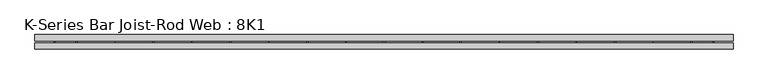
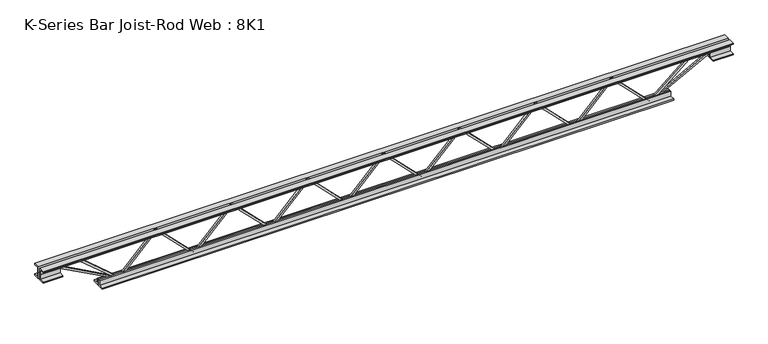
"""IFC4 building model written with IfcOpenShell, lengths in millimetres: beam geometry, K-Series Bar Joist-Rod Web : 8K1."""

from ifc_helpers import new_model, si_unit, frame, origin, place, context, project, spatial, polyline, outline, extrude, source, transform, mapped, element, save


def k_series_bar_joist_rod_web_8k1_99de95d9(model_context):
    return source(origin(), model_context, "Body", "SweptSolid", [
        extrude(outline(polyline([(-90.4875, 586.3869215), (-100.0125, 586.3869215), (-100.0125, 591.5448196), (90.4875, 780.6571268), (90.4875, 783.0413306), (-100.0125, 972.1536378), (-100.0125, 977.3115359), (-90.4875, 977.3115359), (-90.4875, 976.119434), (100.0125, 787.0071268), (100.0125, 776.6913306), (-90.4875, 587.5790235), (-90.4875, 586.3869215)])), frame((0.0, -4.7625, 0.0), z_axis=(0.0, 1.0, 0.0), x_axis=(0.0, 0.0, 1.0)), (0.0, 0.0, 1.0), 9.525),
        extrude(outline(polyline([(-90.4875, 195.4623072), (-100.0125, 195.4623072), (-100.0125, 200.6202052), (90.4875, 389.7325124), (90.4875, 392.1167163), (-100.0125, 581.2290235), (-100.0125, 586.3869215), (-90.4875, 586.3869215), (-90.4875, 585.1948196), (100.0125, 396.0825124), (100.0125, 385.7667163), (-90.4875, 196.6544091), (-90.4875, 195.4623072)])), frame((0.0, -4.7625, 0.0), z_axis=(0.0, 1.0, 0.0), x_axis=(0.0, 0.0, 1.0)), (0.0, 0.0, 1.0), 9.525),
        extrude(outline(polyline([(-90.4875, -195.4623072), (-100.0125, -195.4623072), (-100.0125, -190.3044091), (90.4875, -1.1921019), (90.4875, 1.1921019), (-100.0125, 190.3044091), (-100.0125, 195.4623072), (-90.4875, 195.4623072), (-90.4875, 194.2702052), (100.0125, 5.1578981), (100.0125, -5.1578981), (-90.4875, -194.2702052), (-90.4875, -195.4623072)])), frame((0.0, -4.7625, 0.0), z_axis=(0.0, 1.0, 0.0), x_axis=(0.0, 0.0, 1.0)), (0.0, 0.0, 1.0), 9.525),
        extrude(outline(polyline([(-90.4875, -586.3869215), (-100.0125, -586.3869215), (-100.0125, -581.2290235), (90.4875, -392.1167163), (90.4875, -389.7325124), (-100.0125, -200.6202052), (-100.0125, -195.4623072), (-90.4875, -195.4623072), (-90.4875, -196.6544091), (100.0125, -385.7667163), (100.0125, -396.0825124), (-90.4875, -585.1948196), (-90.4875, -586.3869215)])), frame((0.0, -4.7625, 0.0), z_axis=(0.0, 1.0, 0.0), x_axis=(0.0, 0.0, 1.0)), (0.0, 0.0, 1.0), 9.525),
        extrude(outline(polyline([(-90.4875, -977.3115359), (-100.0125, -977.3115359), (-100.0125, -972.1536378), (90.4875, -783.0413306), (90.4875, -780.6571268), (-100.0125, -591.5448196), (-100.0125, -586.3869215), (-90.4875, -586.3869215), (-90.4875, -587.5790235), (100.0125, -776.6913306), (100.0125, -787.0071268), (-90.4875, -976.119434), (-90.4875, -977.3115359)])), frame((0.0, -4.7625, 0.0), z_axis=(0.0, 1.0, 0.0), x_axis=(0.0, 0.0, 1.0)), (0.0, 0.0, 1.0), 9.525),
        extrude(outline(polyline([(-90.4875, 977.3115359), (-100.0125, 977.3115359), (-100.0125, 982.469434), (90.4875, 1171.5817411), (90.4875, 1173.965945), (-100.0125, 1363.0782522), (-100.0125, 1368.2361502), (-90.4875, 1368.2361502), (-90.4875, 1367.0440483), (100.0125, 1177.9317411), (100.0125, 1167.615945), (-90.4875, 978.5036378), (-90.4875, 977.3115359)])), frame((0.0, -4.7625, 0.0), z_axis=(0.0, 1.0, 0.0), x_axis=(0.0, 0.0, 1.0)), (0.0, 0.0, 1.0), 9.525),
        extrude(outline(polyline([(-90.4875, -1368.2361502), (-100.0125, -1368.2361502), (-100.0125, -1363.0782522), (90.4875, -1173.965945), (90.4875, -1171.5817411), (-100.0125, -982.469434), (-100.0125, -977.3115359), (-90.4875, -977.3115359), (-90.4875, -978.5036378), (100.0125, -1167.615945), (100.0125, -1177.9317411), (-90.4875, -1367.0440483), (-90.4875, -1368.2361502)])), frame((0.0, -4.7625, 0.0), z_axis=(0.0, 1.0, 0.0), x_axis=(0.0, 0.0, 1.0)), (0.0, 0.0, 1.0), 9.525),
        extrude(outline(polyline([(4.7625, 101.6), (36.5125, 101.6), (36.5125, 95.25), (11.1125, 95.25), (11.1125, 69.85), (4.7625, 69.85), (4.7625, 101.6)])), frame((-1774.6361502, 0.0, 0.0), z_axis=(1.0, 0.0, 0.0), x_axis=(0.0, 1.0, 0.0)), (0.0, 0.0, 1.0), 3549.2723005),
        extrude(outline(polyline([(-4.7625, 101.6), (-4.7625, 69.85), (-11.1125, 69.85), (-11.1125, 95.25), (-36.5125, 95.25), (-36.5125, 101.6), (-4.7625, 101.6)])), frame((-1774.6361502, 0.0, 0.0), z_axis=(1.0, 0.0, 0.0), x_axis=(0.0, 1.0, 0.0)), (0.0, 0.0, 1.0), 3549.2723005),
        extrude(outline(polyline([(-4.7625, 38.1), (-36.5125, 38.1), (-36.5125, 44.45), (-11.1125, 44.45), (-11.1125, 69.85), (-4.7625, 69.85), (-4.7625, 38.1)])), frame((-1774.6361502, 0.0, 0.0), z_axis=(1.0, 0.0, 0.0), x_axis=(0.0, 1.0, 0.0)), (0.0, 0.0, 1.0), 101.6),
        extrude(outline(polyline([(36.5125, 38.1), (4.7625, 38.1), (4.7625, 69.85), (11.1125, 69.85), (11.1125, 44.45), (36.5125, 44.45), (36.5125, 38.1)])), frame((-1774.6361502, 0.0, 0.0), z_axis=(1.0, 0.0, 0.0), x_axis=(0.0, 1.0, 0.0)), (0.0, 0.0, 1.0), 101.6),
        extrude(outline(polyline([(4.7625, 38.1), (4.7625, 69.85), (11.1125, 69.85), (11.1125, 44.45), (36.5125, 44.45), (36.5125, 38.1), (4.7625, 38.1)])), frame((1673.0361502, 0.0, 0.0), z_axis=(1.0, 0.0, 0.0), x_axis=(0.0, 1.0, 0.0)), (0.0, 0.0, 1.0), 101.6),
        extrude(outline(polyline([(-4.7625, 38.1), (-36.5125, 38.1), (-36.5125, 44.45), (-11.1125, 44.45), (-11.1125, 69.85), (-4.7625, 69.85), (-4.7625, 38.1)])), frame((1673.0361502, 0.0, 0.0), z_axis=(1.0, 0.0, 0.0), x_axis=(0.0, 1.0, 0.0)), (0.0, 0.0, 1.0), 101.6),
        extrude(outline(polyline([(4.7625, -101.6), (4.7625, -69.85), (11.1125, -69.85), (11.1125, -95.25), (36.5125, -95.25), (36.5125, -101.6), (4.7625, -101.6)])), frame((-1469.8361502, 0.0, 0.0), z_axis=(1.0, 0.0, 0.0), x_axis=(0.0, 1.0, 0.0)), (0.0, 0.0, 1.0), 2939.6723005),
        extrude(outline(polyline([(-4.7625, -101.6), (-36.5125, -101.6), (-36.5125, -95.25), (-11.1125, -95.25), (-11.1125, -69.85), (-4.7625, -69.85), (-4.7625, -101.6)])), frame((-1469.8361502, 0.0, 0.0), z_axis=(1.0, 0.0, 0.0), x_axis=(0.0, 1.0, 0.0)), (0.0, 0.0, 1.0), 2939.6723005),
        extrude(outline(polyline([(0.0, -9.525), (0.0, 0.0), (346.6425392, 0.0), (346.6425392, -9.525), (0.0, -9.525)])), frame((-1675.3044487, 4.7625, 65.662372), z_axis=(0.47628314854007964, 0.0, 0.8792919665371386), x_axis=(0.8792919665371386, 0.0, -0.47628314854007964)), (0.0, 0.0, 1.0), 9.525),
        extrude(outline(polyline([(0.0, -9.525), (0.0, 0.0), (255.8584052, 0.0), (255.8584052, -9.525), (0.0, -9.525)])), frame((-1566.7715976, 4.7625, 66.2117016), z_axis=(0.6452787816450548, 0.0, 0.7639471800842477), x_axis=(0.7639471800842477, 0.0, -0.6452787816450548)), (0.0, 0.0, 1.0), 9.525),
        extrude(outline(polyline([(0.0, -9.525), (0.0, 0.0), (346.6425392, 0.0), (346.6425392, -9.525), (0.0, -9.525)])), frame((1675.3044487, -4.7625, 65.662372), z_axis=(-0.4762831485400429, 0.0, 0.8792919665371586), x_axis=(-0.8792919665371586, 0.0, -0.4762831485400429)), (0.0, 0.0, 1.0), 9.525),
        extrude(outline(polyline([(0.0, -9.525), (0.0, 0.0), (255.8584052, 0.0), (255.8584052, -9.525), (0.0, -9.525)])), frame((1566.7715976, -4.7625, 66.2117016), z_axis=(-0.6452787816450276, 0.0, 0.7639471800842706), x_axis=(-0.7639471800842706, 0.0, -0.6452787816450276)), (0.0, 0.0, 1.0), 9.525),
    ])


if __name__ == "__main__":
    model = new_model("IFC4")
    model_context = context("Model", 3, world=origin())
    ifc_project = project(units=[si_unit("LENGTHUNIT", "METRE", prefix="MILLI")], contexts=[model_context])
    site = spatial("IfcSite", under=ifc_project)
    building = spatial("IfcBuilding", under=site)
    placement = place(None, origin())
    k_series_bar_joist_rod_web_8k1_shape = k_series_bar_joist_rod_web_8k1_99de95d9(model_context)
    element("IfcBeam", 1, ObjectType="K-Series Bar Joist-Rod Web : 8K1", at=placement, inside=building, context=model_context, shape_type="MappedRepresentation", body=[
        mapped(k_series_bar_joist_rod_web_8k1_shape, transform((0.0, 0.0, 0.0), x_axis=(1.0, 0.0, 0.0), y_axis=(0.0, 1.0, 0.0), z_axis=(0.0, 0.0, 1.0))),
    ])
    save(model, "model.ifc")
